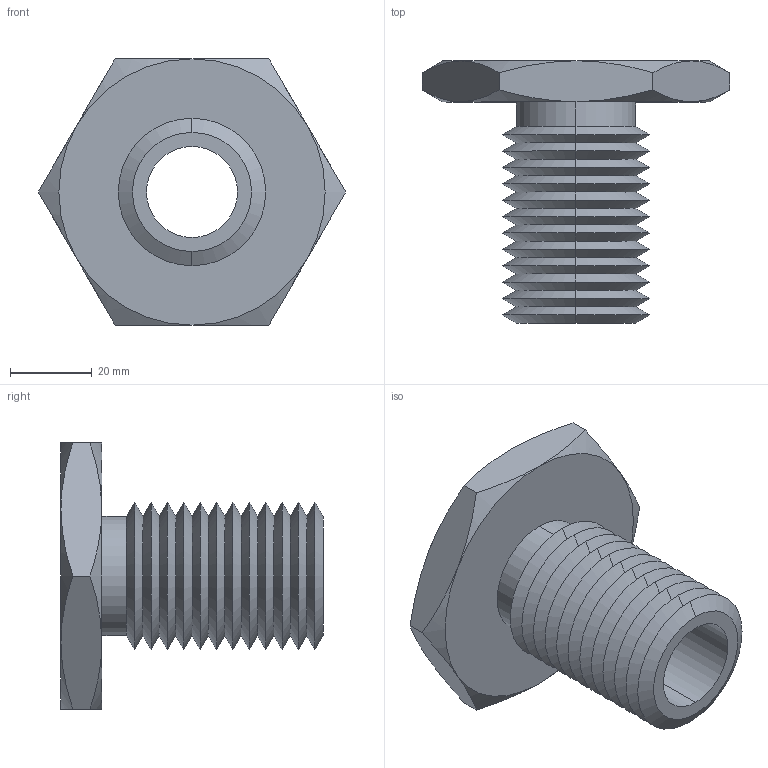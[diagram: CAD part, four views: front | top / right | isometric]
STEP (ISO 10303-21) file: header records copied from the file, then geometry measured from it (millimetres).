
FILE_DESCRIPTION (( 'STEP AP203' ), '1' );
FILE_NAME ('63302.W0036_0,87 UNC-9.step', '2013-12-08T11:12:11', ( 'User' ), ( '' ), 'SwSTEP 2.0', 'SolidWorks 2009', '' );
FILE_SCHEMA (( 'CONFIG_CONTROL_DESIGN' ));
Length unit declared in the file: millimetre
Products named in the file (1): 63302.W0036_0,87 UNC-9
Bounding box: 75.06 x 64 x 65 mm (x, y, z)
Volume: 54892.8 mm3; surface area: 23175.4 mm2
Topology: 1 solids, 1 shells, 75 faces, 154 edges, 82 vertices
Faces by surface type: cone 62, plane 9, cylinder 4
Entity records: 2139 total; most frequent: CARTESIAN_POINT 496, DIRECTION 352, ORIENTED_EDGE 308, EDGE_CURVE 154, AXIS2_PLACEMENT_3D 146, VERTEX_POINT 82, EDGE_LOOP 78, ADVANCED_FACE 75
